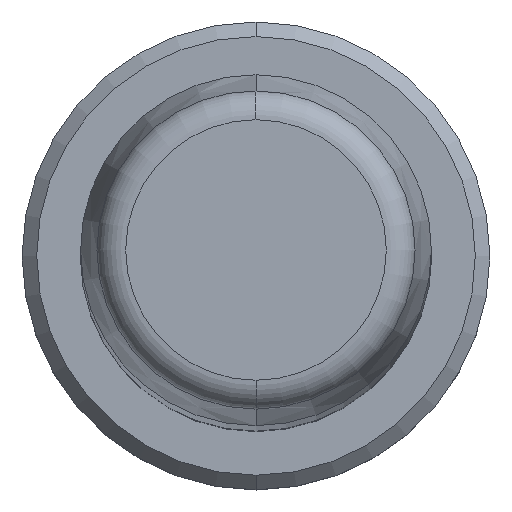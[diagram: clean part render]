
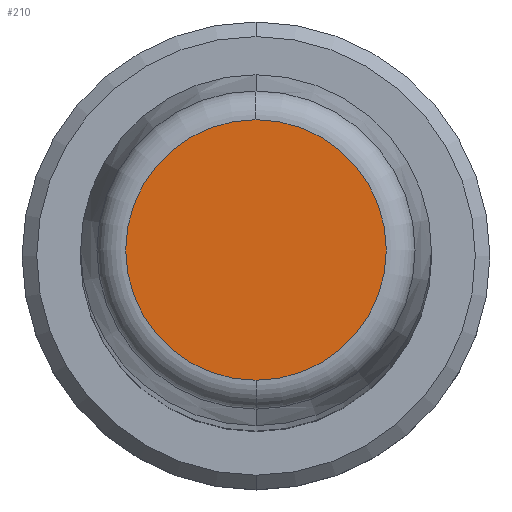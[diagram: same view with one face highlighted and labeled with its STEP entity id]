
A CAD part, top view. The second image highlights one B-rep face of the part: STEP entity #210.
In plain terms, the highlighted planar face has unit normal (0, 0, 1).
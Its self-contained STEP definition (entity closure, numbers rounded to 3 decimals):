
#1=CARTESIAN_POINT('',(0.,0.,120.));
#2=DIRECTION('',(0.,0.,-1.));
#3=DIRECTION('',(0.,-1.,0.));
#4=AXIS2_PLACEMENT_3D('',#1,#2,#3);
#6=CARTESIAN_POINT('',(0.,0.,120.));
#7=DIRECTION('',(0.,0.,-1.));
#8=DIRECTION('',(0.,1.,0.));
#9=AXIS2_PLACEMENT_3D('',#6,#7,#8);
#183=CARTESIAN_POINT('',(0.,-4.456,120.));
#184=CARTESIAN_POINT('',(0.,4.456,120.));
#185=VERTEX_POINT('',#183);
#186=VERTEX_POINT('',#184);
#199=CARTESIAN_POINT('',(0.,0.,120.));
#200=DIRECTION('',(0.,0.,1.));
#201=DIRECTION('',(0.,-1.,0.));
#202=AXIS2_PLACEMENT_3D('',#199,#200,#201);
#203=PLANE('',#202);
#205=ORIENTED_EDGE('',*,*,#204,.T.);
#207=ORIENTED_EDGE('',*,*,#206,.T.);
#208=EDGE_LOOP('',(#205,#207));
#209=FACE_OUTER_BOUND('',#208,.F.);
#210=ADVANCED_FACE('',(#209),#203,.T.);
#5=CIRCLE('',#4,4.456);
#10=CIRCLE('',#9,4.456);
#204=EDGE_CURVE('',#185,#186,#5,.T.);
#206=EDGE_CURVE('',#186,#185,#10,.T.);
